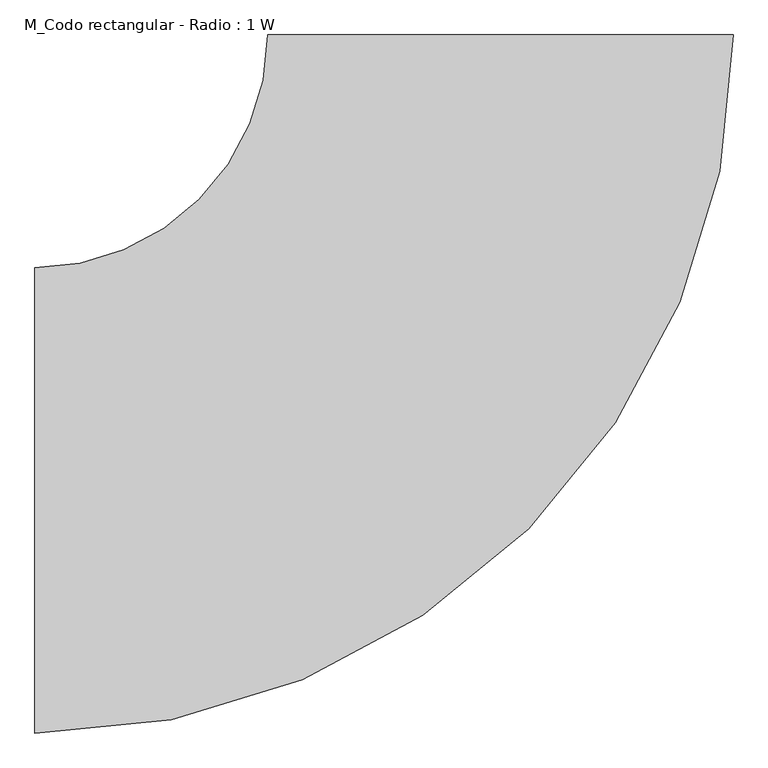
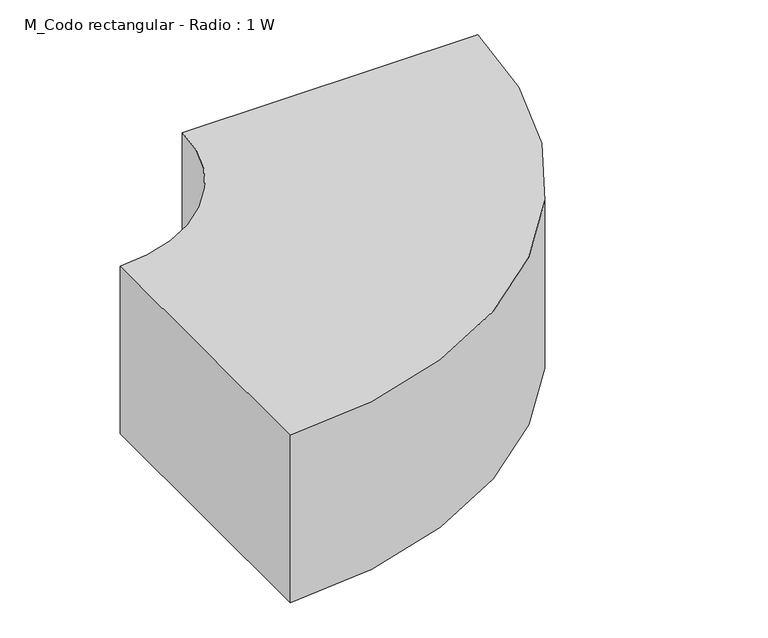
"""IFC4 building model written with IfcOpenShell, lengths in millimetres: duct fitting geometry, M_Codo rectangular - Radio : 1 W."""

from ifc_helpers import new_model, si_unit, point, frame, frame_2d, origin, place, context, project, spatial, polyline, circle_curve, trimmed, segment, composite_curve, outline, extrude, source, transform, mapped, element, save


def m_codo_rectangular_radio_1_w_de1d0729(model_context):
    return source(origin(), model_context, "Body", "SweptSolid", [
        extrude(outline(composite_curve([segment(trimmed(circle_curve(frame_2d((-750.0, 750.0)), 1125.0), [point((375.0, 750.0))], [point((-750.0, -375.0))], False, "CARTESIAN"), True, "CONTINUOUS"), segment(polyline([(-750.0, -375.0), (-750.0, 375.0)]), True, "CONTINUOUS"), segment(trimmed(circle_curve(frame_2d((-750.0, 750.0)), 375.0), [point((-750.0, 375.0))], [point((-375.0, 750.0))], True, "CARTESIAN"), True, "CONTINUOUS"), segment(polyline([(-375.0, 750.0), (375.0, 750.0)]), True, "CONTINUOUS")], self_intersect=False)), frame((0.0, 0.0, -225.0), z_axis=(0.0, 0.0, 1.0), x_axis=(1.0, 0.0, 0.0)), (0.0, 0.0, 1.0), 450.0),
    ])


if __name__ == "__main__":
    model = new_model("IFC4")
    model_context = context("Model", 3, world=origin())
    ifc_project = project(units=[si_unit("LENGTHUNIT", "METRE", prefix="MILLI")], contexts=[model_context])
    site = spatial("IfcSite", under=ifc_project)
    building = spatial("IfcBuilding", under=site)
    placement = place(None, origin())
    m_codo_rectangular_radio_1_w_shape = m_codo_rectangular_radio_1_w_de1d0729(model_context)
    element("IfcDuctFitting", 1, ObjectType="M_Codo rectangular - Radio : 1 W", at=placement, inside=building, context=model_context, shape_type="MappedRepresentation", body=[
        mapped(m_codo_rectangular_radio_1_w_shape, transform((0.0, 0.0, 0.0), x_axis=(1.0, 0.0, 0.0), y_axis=(0.0, 1.0, 0.0), z_axis=(0.0, 0.0, 1.0))),
    ])
    save(model, "model.ifc")
